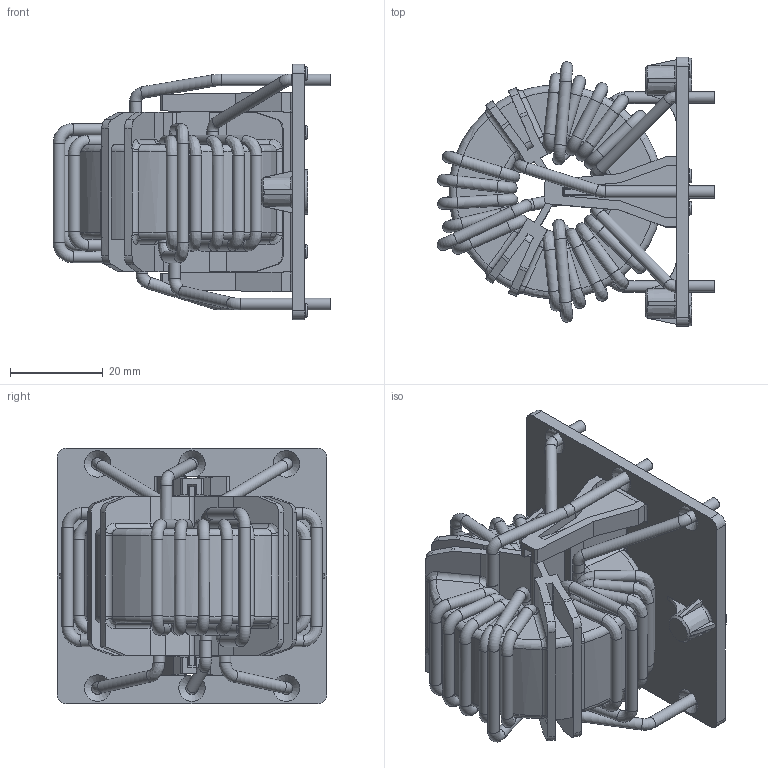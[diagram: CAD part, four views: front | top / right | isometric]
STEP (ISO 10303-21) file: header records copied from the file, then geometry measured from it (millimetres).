
FILE_DESCRIPTION((''),'2;1');
FILE_NAME('K:\Development\Projects\RB\Angel_standard choke series 2011\70_Realization_Revision\702_MechanicalDesign\RB6532-25-0M5.stp','2012-12-27T16:28:32',('BIN.FAN'),(''),'Autodesk Inventor 2010','Autodesk Inventor 2010','');
FILE_SCHEMA(('AUTOMOTIVE_DESIGN { 1 0 10303 214 1 1 1 1 }'));
Length unit declared in the file: millimetre
Products named in the file (1): RB6532-25-0M5  for customer_包覆面提取_1
Bounding box: 59.78 x 58 x 55 mm (x, y, z)
Surface area: 32990.1 mm2 (no closed solid volume)
Topology: 0 solids, 1 shells, 928 faces, 2653 edges, 1673 vertices
Faces by surface type: plane 354, cylinder 198, bspline 190, torus 156, cone 30
Full cylindrical faces by diameter (mm): 2.5 x42, 2.7 x6, 3 x8, 9.6 x1
Entity records: 36356 total; most frequent: CARTESIAN_POINT 13860, ORIENTED_EDGE 4764, DIRECTION 3932, EDGE_CURVE 2382, VERTEX_POINT 1561, AXIS2_PLACEMENT_3D 1432, EDGE_LOOP 1117, VECTOR 1068
